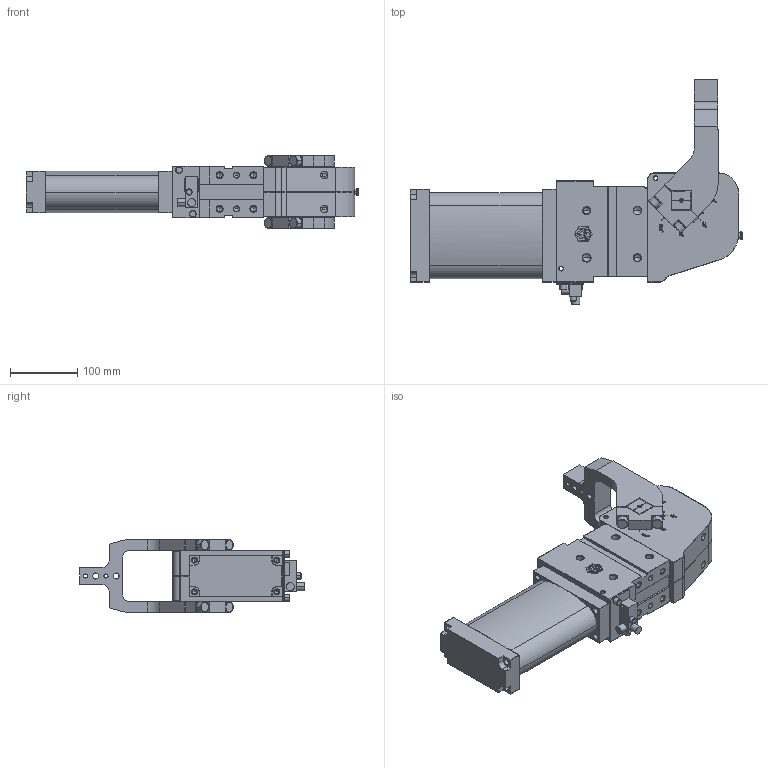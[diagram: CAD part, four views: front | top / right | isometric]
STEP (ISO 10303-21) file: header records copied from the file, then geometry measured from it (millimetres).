
FILE_DESCRIPTION (( 'STEP AP214' ), '1' );
FILE_NAME ('P32-80.STEP', '2021-12-10T05:31:18', ( '' ), ( '' ), 'SwSTEP 2.0', 'SolidWorks 2015', '' );
FILE_SCHEMA (( 'AUTOMOTIVE_DESIGN' ));
Length unit declared in the file: millimetre
Products named in the file (13): P32-80_id34_x_t; BREP WITH VOIDS_id26_x_t; P32-80_id38_x_t; P32-80_id30_x_t; BREP WITH VOIDS_id18_x_t; P32-80_id14_x_t; P32-80_id10_x_t; BREP WITH VOIDS_id6_x_t; P32-80; BREP WITH VOIDS_id22_x_t; P32-80_id46_x_t; P32-80_id42_x_t; BREP WITH VOIDS_id50_x_t
Assembly tree (12 placements, depth 2):
  P32-80
    BREP WITH VOIDS_id6_x_t
    P32-80_id10_x_t
    P32-80_id14_x_t
    BREP WITH VOIDS_id18_x_t
    BREP WITH VOIDS_id22_x_t
    BREP WITH VOIDS_id26_x_t
    P32-80_id30_x_t
    P32-80_id34_x_t
    P32-80_id38_x_t
    P32-80_id42_x_t
    P32-80_id46_x_t
    BREP WITH VOIDS_id50_x_t
Bounding box: 492 x 333.3 x 108 mm (x, y, z)
Volume: 3683556.5 mm3; surface area: 483852.6 mm2
Topology: 12 solids, 17 shells, 1762 faces, 4457 edges, 2752 vertices
Faces by surface type: plane 744, cylinder 491, cone 331, bspline 196
Entity records: 78620 total; most frequent: CARTESIAN_POINT 17248, ORIENTED_EDGE 8750, DIRECTION 8363, EDGE_CURVE 4375, AXIS2_PLACEMENT_3D 2868, VERTEX_POINT 2752, LINE 2627, VECTOR 2627
